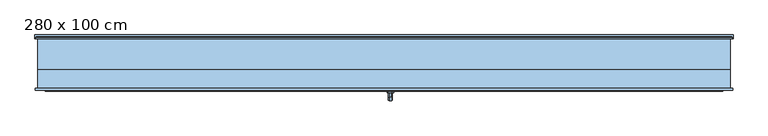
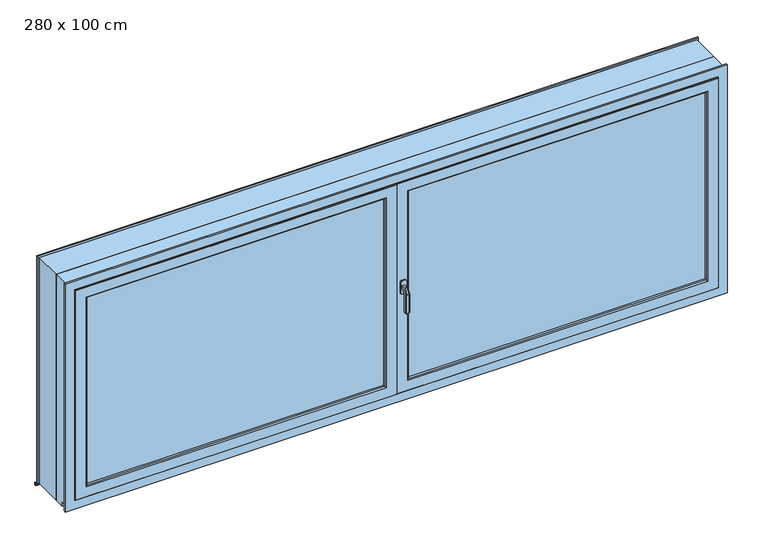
"""IFC4 building model written with IfcOpenShell, lengths in millimetres: window geometry, Fenêtre 2 Vantaux : 280 x 100 cm."""

import ifcopenshell
import ifcopenshell.guid

model = None  # the IFC model being written
_history = None  # IfcOwnerHistory: only IFC2X3 demands one
_inside = {}  # id of a spatial element -> (the spatial element, [elements in it])
_under = {}  # id of a project, library or spatial element -> (it, [spatial elements below it])
_declared = {}  # id of a project -> (the project, [libraries it declares])
_typed = {}  # id of a type object -> (the type object, [elements of that type])
_made_of = {}  # id of a material, layer set ... -> (it, [elements and type objects made of it])


def new_model(schema):
    """Start an empty IFC model of exactly this schema.

    Asked for "IFC4X3", IfcOpenShell would pick the latest addendum, in which some entities
    have other attributes; the version numbers below select the first issue.
    IFC2X3 requires an IfcOwnerHistory on every rooted entity: one is made here for all.
    """
    global model, _history
    if schema == "IFC4X3":
        model = ifcopenshell.file(schema_version=(4, 3, 0, 0))
    else:
        model = ifcopenshell.file(schema=schema)
    _inside.clear()
    _under.clear()
    _declared.clear()
    _typed.clear()
    _made_of.clear()
    _history = None
    if model.schema == "IFC2X3":
        org = make("IfcOrganization", Name="unknown")
        user = make(
            "IfcPersonAndOrganization",
            ThePerson=make("IfcPerson", FamilyName="unknown"),
            TheOrganization=org,
        )
        app = make(
            "IfcApplication",
            ApplicationDeveloper=org,
            Version="unknown",
            ApplicationFullName="unknown",
            ApplicationIdentifier="unknown",
        )
        _history = make(
            "IfcOwnerHistory",
            OwningUser=user,
            OwningApplication=app,
            ChangeAction="ADDED",
            CreationDate=0,
        )
    return model


def make(cls, **values):
    """One entity of the class cls with the attributes given. An attribute that is None is left unset."""
    return model.create_entity(
        cls, **{name: value for name, value in values.items() if value is not None}
    )


def rooted(cls, **values):
    """An entity with a GlobalId (a new one), such as an element, a storey or a relation."""
    return make(cls, GlobalId=ifcopenshell.guid.new(), OwnerHistory=_history, **values)


def si_unit(unit_type, name, prefix=None):
    """IfcSIUnit, for example si_unit("LENGTHUNIT", "METRE", prefix="MILLI")."""
    return make("IfcSIUnit", UnitType=unit_type, Prefix=prefix, Name=name)


def assignment(units):
    """IfcUnitAssignment: the units of a project."""
    return None if units is None else make("IfcUnitAssignment", Units=units)


def point(xyz):
    """IfcCartesianPoint."""
    return None if xyz is None else make("IfcCartesianPoint", Coordinates=xyz)


def direction(xyz):
    """IfcDirection."""
    return None if xyz is None else make("IfcDirection", DirectionRatios=xyz)


def frame(location, z_axis=None, x_axis=None):
    """IfcAxis2Placement3D, a coordinate frame: its origin and axes. An axis left out is left unset."""
    return make(
        "IfcAxis2Placement3D",
        Location=point(location),
        Axis=direction(z_axis),
        RefDirection=direction(x_axis),
    )


def origin():
    """The frame at (0, 0, 0) with its axes left unset."""
    return frame((0.0, 0.0, 0.0))


def place(relative_to, where):
    """IfcLocalPlacement: puts the frame where relative to a parent placement (None: the world)."""
    return make(
        "IfcLocalPlacement", PlacementRelTo=relative_to, RelativePlacement=where
    )


def context(
    kind, dimensions, precision=None, world=None, true_north=None, identifier=None
):
    """IfcGeometricRepresentationContext, for example the 3D "Model" context."""
    return make(
        "IfcGeometricRepresentationContext",
        ContextIdentifier=identifier,
        ContextType=kind,
        CoordinateSpaceDimension=dimensions,
        Precision=precision,
        WorldCoordinateSystem=world,
        TrueNorth=true_north,
    )


def project(units=None, contexts=None):
    """IfcProject with its units and contexts."""
    return rooted(
        "IfcProject",
        Name="project",
        RepresentationContexts=contexts,
        UnitsInContext=assignment(units),
    )


def spatial(cls, under=None, at=None, **own):
    """A site, building, storey or space (cls), placed at a placement, below another one or the project."""
    s = rooted(cls, ObjectPlacement=at, **own)
    if under is not None:
        _under.setdefault(under.id(), (under, []))[1].append(s)
    return s


def polyline(points):
    """IfcPolyline through the points."""
    return make("IfcPolyline", Points=[point(p) for p in points])


def outline(outer, holes=None, kind="AREA"):
    """IfcArbitraryClosedProfileDef: a profile drawn as a closed curve; with holes, ...WithVoids."""
    if holes is None:
        return make("IfcArbitraryClosedProfileDef", ProfileType=kind, OuterCurve=outer)
    return make(
        "IfcArbitraryProfileDefWithVoids",
        ProfileType=kind,
        OuterCurve=outer,
        InnerCurves=holes,
    )


def extrude(swept, where, along, depth):
    """IfcExtrudedAreaSolid: the profile swept, set in the frame where, extruded along a direction by depth."""
    return make(
        "IfcExtrudedAreaSolid",
        SweptArea=swept,
        Position=where,
        ExtrudedDirection=direction(along),
        Depth=depth,
    )


def faces_of(points, faces, orient=None, outer=None):
    """IfcFace entities. A face is a list of loops; a loop is a list of indices into points, from 0.

    orient and outer hold one flag for each loop. By default every Orientation is true, the
    first loop of a face is its IfcFaceOuterBound and the others are IfcFaceBound.
    """
    made = []
    for i, loops in enumerate(faces):
        bounds = []
        for j, loop in enumerate(loops):
            is_outer = j == 0 if outer is None else outer[i][j]
            bounds.append(
                make(
                    "IfcFaceOuterBound" if is_outer else "IfcFaceBound",
                    Bound=make("IfcPolyLoop", Polygon=[points[k] for k in loop]),
                    Orientation=True if orient is None else orient[i][j],
                )
            )
        made.append(make("IfcFace", Bounds=bounds))
    return made


def faceted_brep(points, faces, orient=None, outer=None, voids=None):
    """IfcFacetedBrep: a solid bounded by flat faces; with voids (closed shells), ...WithVoids."""
    shared = [point(p) for p in points]
    hull = make("IfcClosedShell", CfsFaces=faces_of(shared, faces, orient, outer))
    if voids is None:
        return make("IfcFacetedBrep", Outer=hull)
    return make(
        "IfcFacetedBrepWithVoids",
        Outer=hull,
        Voids=[
            make(cls, CfsFaces=faces_of(shared, fs, o, b)) for cls, fs, o, b in voids
        ],
    )


def shape(context_of_items, identifier, shape_type, items):
    """IfcShapeRepresentation: the items that make up one representation, for example the "Body"."""
    return make(
        "IfcShapeRepresentation",
        ContextOfItems=context_of_items,
        RepresentationIdentifier=identifier,
        RepresentationType=shape_type,
        Items=items,
    )


def source(mapping_origin, context_of_items, identifier, shape_type, items):
    """IfcRepresentationMap: a shape defined once, which mapped items show again and again."""
    return make(
        "IfcRepresentationMap",
        MappingOrigin=mapping_origin,
        MappedRepresentation=shape(context_of_items, identifier, shape_type, items),
    )


def transform(
    local_origin,
    x_axis=None,
    y_axis=None,
    z_axis=None,
    scale=None,
    scale2=None,
    scale3=None,
    uniform=True,
):
    """IfcCartesianTransformationOperator3D, or its non-uniform kind. x_axis, y_axis, z_axis: its Axis1, 2, 3."""
    if uniform:
        return make(
            "IfcCartesianTransformationOperator3D",
            Axis1=direction(x_axis),
            Axis2=direction(y_axis),
            LocalOrigin=point(local_origin),
            Scale=scale,
            Axis3=direction(z_axis),
        )
    return make(
        "IfcCartesianTransformationOperator3DnonUniform",
        Axis1=direction(x_axis),
        Axis2=direction(y_axis),
        LocalOrigin=point(local_origin),
        Scale=scale,
        Axis3=direction(z_axis),
        Scale2=scale2,
        Scale3=scale3,
    )


def mapped(mapping_source, mapping_target):
    """IfcMappedItem: shows the shape of a source again, moved by a transform."""
    return make(
        "IfcMappedItem", MappingSource=mapping_source, MappingTarget=mapping_target
    )


def made_of(thing, what):
    """Note that an element or type object is made of a material, layer set ...; save() writes the relation."""
    if what is not None:
        _made_of.setdefault(what.id(), (what, []))[1].append(thing)
    return thing


def element(
    cls,
    number,
    at=None,
    inside=None,
    cuts=None,
    type_object=None,
    material=None,
    context=None,
    identifier="Body",
    shape_type=None,
    held_by="IfcProductDefinitionShape",
    body=None,
    shapes=None,
    **own,
):
    """One element of the class cls, such as IfcWall. Its Tag is "e" and its number.

    at: its placement. inside: the storey or other place that contains it. cuts: it is an
    opening in that element (IfcRelVoidsElement). A single representation is given by context,
    identifier, shape_type and body (its items); several are given by shapes. held_by: the class
    of the entity that holds the representations. save() writes the other relations.
    """
    e = rooted(cls, Tag="e%d" % number, ObjectPlacement=at, **own)
    if body is not None:
        shapes = [shape(context, identifier, shape_type, body)]
    if shapes is not None:
        e.Representation = make(held_by, Representations=shapes)
    if inside is not None:
        _inside.setdefault(inside.id(), (inside, []))[1].append(e)
    if cuts is not None:
        rooted(
            "IfcRelVoidsElement", RelatingBuildingElement=cuts, RelatedOpeningElement=e
        )
    if type_object is not None:
        _typed.setdefault(type_object.id(), (type_object, []))[1].append(e)
    return made_of(e, material)


def aggregate(whole, parts):
    """IfcRelAggregates: a whole, such as a stair, and the parts it consists of."""
    return rooted("IfcRelAggregates", RelatingObject=whole, RelatedObjects=parts)


def save(model, path):
    """Write the relations noted so far, then the file.

    IfcRelAggregates (storeys below a building ...), IfcRelContainedInSpatialStructure (elements
    in a storey), IfcRelDefinesByType, IfcRelAssociatesMaterial and IfcRelDeclares: one each for
    every whole, place, type object, material and project.
    """
    for whole, parts in _under.values():
        aggregate(whole, parts)
    for where, things in _inside.values():
        rooted(
            "IfcRelContainedInSpatialStructure",
            RelatedElements=things,
            RelatingStructure=where,
        )
    for kind, things in _typed.values():
        rooted("IfcRelDefinesByType", RelatedObjects=things, RelatingType=kind)
    for what, things in _made_of.values():
        rooted("IfcRelAssociatesMaterial", RelatedObjects=things, RelatingMaterial=what)
    for by, libraries in _declared.values():
        rooted("IfcRelDeclares", RelatingContext=by, RelatedDefinitions=libraries)
    model.write(path)


def window_280_x_100_cm_213e6699(model_context):
    return source(origin(), model_context, "Body", "SolidModel", [
        faceted_brep([(30.9590356, -118.0471229, 1308.0), (33.9411255, -118.0471229, 1305.0179101), (33.9411255, -118.0471229, 1294.9820899), (30.9590356, -118.0471229, 1292.0), (20.9232154, -118.0471229, 1292.0), (17.9411255, -118.0471229, 1294.9820899), (17.9411255, -118.0471229, 1305.0179101), (20.9232154, -118.0471229, 1308.0), (30.9590356, -137.665925, 1308.0), (33.9411255, -135.9442146, 1305.0179101), (33.9411255, -148.065033, 1284.0240369), (33.9411255, -148.065033, 1201.9658946), (33.9411255, -138.0292127, 1201.9658946), (33.9411255, -138.0292127, 1281.334947), (33.9411255, -130.1500311, 1294.9820899), (30.9590356, -128.4283207, 1292.0), (20.9232154, -128.4283207, 1292.0), (17.9411255, -130.1500311, 1294.9820899), (17.9411255, -138.0292127, 1281.334947), (17.9411255, -138.0292127, 1201.9658946), (17.9411255, -148.065033, 1201.9658946), (17.9411255, -148.065033, 1284.0240369), (17.9411255, -135.9442146, 1305.0179101), (20.9232154, -137.665925, 1308.0), (30.9590356, -151.0471229, 1284.8230855), (30.9590356, -135.0471229, 1280.5358984), (20.9232154, -135.0471229, 1280.5358984), (20.9232154, -151.0471229, 1284.8230855), (21.7375155, -149.0812283, 1200.0), (19.90702, -147.2507328, 1200.0), (19.90702, -138.8435129, 1200.0), (21.7375155, -137.0130174, 1200.0), (30.1447355, -137.0130174, 1200.0), (31.9752309, -138.8435129, 1200.0), (31.9752309, -147.2507328, 1200.0), (30.1447355, -149.0812283, 1200.0), (30.9590356, -151.0471229, 1201.9658946), (30.9590356, -135.0471229, 1201.9658946), (20.9232154, -135.0471229, 1201.9658946), (20.9232154, -151.0471229, 1201.9658946)], [[[0, 1, 2, 3, 4, 5, 6, 7]], [[1, 0, 8, 9]], [[2, 1, 9, 10, 11, 12, 13, 14]], [[3, 2, 14, 15]], [[4, 3, 15, 16]], [[5, 4, 16, 17]], [[6, 5, 17, 18, 19, 20, 21, 22]], [[7, 6, 22, 23]], [[0, 7, 23, 8]], [[9, 8, 24, 10]], [[14, 13, 25, 15]], [[16, 15, 25, 26]], [[17, 16, 26, 18]], [[22, 21, 27, 23]], [[8, 23, 27, 24]], [[28, 29, 30, 31, 32, 33, 34, 35]], [[10, 24, 36, 11]], [[25, 13, 12, 37]], [[26, 25, 37, 38]], [[18, 26, 38, 19]], [[27, 21, 20, 39]], [[24, 27, 39, 36]], [[20, 29, 28, 39]], [[29, 20, 19, 30]], [[30, 19, 38, 31]], [[31, 38, 37, 32]], [[32, 37, 12, 33]], [[33, 12, 11, 34]], [[34, 11, 36, 35]], [[39, 28, 35, 36]]]),
        extrude(outline(polyline([(1270.0, 33.9411255), (1275.0, 38.9411255), (1325.0, 38.9411255), (1330.0, 33.9411255), (1330.0, 17.9411255), (1325.0, 12.9411255), (1275.0, 12.9411255), (1270.0, 17.9411255), (1270.0, 33.9411255)])), frame((0.0, -118.0471229, 0.0), z_axis=(0.0, 1.0, 0.0), x_axis=(0.0, 0.0, 1.0)), (0.0, 0.0, 1.0), 5.0),
        faceted_brep([(1320.0, -74.0588745, 1720.0), (1324.0588745, -70.0, 1724.0588745), (1324.0588745, -70.0, 869.4411255), (1320.0, -74.0588745, 873.5), (1368.5, -70.0, 1768.5), (1368.5, -70.0, 825.0), (1.5, -70.0, 825.0), (1.5, -70.0, 1768.5), (45.9411255, -70.0, 1724.0588745), (45.9411255, -70.0, 869.4411255), (50.0, -74.0588745, 873.5), (1320.0, -83.5235614, 1720.0), (1320.0, -83.5235614, 873.5), (50.0, -83.5235614, 873.5), (44.0, -83.5235614, 1726.0), (44.0, -83.5235614, 867.5), (1326.0, -83.5235614, 867.5), (1326.0, -83.5235614, 1726.0), (50.0, -83.5235614, 1720.0), (1326.0, -99.5235614, 1726.0), (1326.0, -99.5235614, 867.5), (44.0, -99.5235614, 867.5), (44.0, -99.5235614, 1726.0), (50.0, -99.5235614, 1720.0), (50.0, -99.5235614, 873.5), (1320.0, -99.5235614, 873.5), (1320.0, -99.5235614, 1720.0), (1320.0, -108.9882484, 1720.0), (1320.0, -108.9882484, 873.5), (50.0, -108.9882484, 873.5), (1324.0588745, -113.0471229, 1724.0588745), (1324.0588745, -113.0471229, 869.4411255), (45.9411255, -113.0471229, 869.4411255), (1.5, -113.0471229, 1768.5), (1.5, -113.0471229, 825.0), (1368.5, -113.0471229, 825.0), (1368.5, -113.0471229, 1768.5), (45.9411255, -113.0471229, 1724.0588745), (1370.0, -71.5, 1770.0), (1370.0, -111.5471229, 1770.0), (1370.0, -111.5471229, 823.5), (1370.0, -71.5, 823.5), (0.0, -111.5471229, 823.5), (0.0, -71.5, 823.5), (50.0, -74.0588745, 1720.0), (50.0, -108.9882484, 1720.0), (0.0, -111.5471229, 1770.0), (0.0, -71.5, 1770.0)], [[[0, 1, 2, 3]], [[4, 5, 6, 7], [8, 9, 2, 1]], [[3, 2, 9, 10]], [[11, 0, 3, 12]], [[12, 3, 10, 13]], [[14, 15, 16, 17], [11, 12, 13, 18]], [[19, 17, 16, 20]], [[20, 16, 15, 21]], [[19, 20, 21, 22], [23, 24, 25, 26]], [[27, 26, 25, 28]], [[28, 25, 24, 29]], [[30, 27, 28, 31]], [[31, 28, 29, 32]], [[33, 34, 35, 36], [30, 31, 32, 37]], [[38, 39, 40, 41]], [[39, 36, 35, 40]], [[41, 40, 42, 43]], [[4, 38, 41, 5]], [[10, 9, 8, 44]], [[13, 10, 44, 18]], [[21, 15, 14, 22]], [[29, 24, 23, 45]], [[32, 29, 45, 37]], [[40, 35, 34, 42]], [[43, 42, 46, 47]], [[5, 41, 43, 6]], [[6, 43, 47, 7]], [[42, 34, 33, 46]], [[44, 8, 1, 0]], [[18, 44, 0, 11]], [[22, 14, 17, 19]], [[45, 23, 26, 27]], [[37, 45, 27, 30]], [[47, 46, 39, 38]], [[7, 47, 38, 4]], [[46, 33, 36, 39]]]),
        faceted_brep([(-1375.6755267, -20.0, 813.8687943), (-1375.6755267, -20.0, 795.0), (-1375.6755267, -22.0, 795.0), (-1375.6755267, -22.0, 800.0), (-1375.6755267, -25.0, 800.0), (-1375.6755267, -25.0, 814.2950679), (1375.6755267, -20.0, 813.8687943), (1375.6755267, -20.0, 795.0), (1375.6755267, -22.0, 795.0), (1375.6755267, -22.0, 800.0), (1375.6755267, -25.0, 800.0), (1375.0, -25.6755267, 800.0), (1375.0, -60.0, 800.0), (1360.0, -60.0, 800.0), (1360.0, -70.0, 800.0), (1400.0, -70.0, 800.0), (1400.0, -100.0, 800.0), (-1400.0, -100.0, 800.0), (-1400.0, -70.0, 800.0), (-1360.0, -70.0, 800.0), (-1360.0, -60.0, 800.0), (-1375.0, -60.0, 800.0), (-1375.0, -25.6755267, 800.0), (-1375.6755267, -25.0, 783.5), (-1400.0, -25.0, 783.5), (-1400.0, -25.0, 1800.0), (1400.0, -25.0, 1800.0), (1400.0, -25.0, 783.5), (1375.6755267, -25.0, 783.5), (1375.6755267, -25.0, 814.2950679), (1375.6755267, -25.0, 1775.6755267), (-1375.6755267, -25.0, 1775.6755267), (-1375.0, -25.6755267, 814.3526597), (-1375.0, -60.0, 817.278983), (1375.0, -60.0, 817.278983), (1375.0, -25.6755267, 814.3526597), (-1410.0, -100.0, 783.5), (-1410.0, -100.0, 1810.0), (1410.0, -100.0, 1810.0), (1410.0, -100.0, 783.5), (1400.0, -100.0, 1800.0), (-1400.0, -100.0, 1800.0), (-1410.0, -108.0, 783.5), (-1410.0, -108.0, 1810.0), (1410.0, -108.0, 1810.0), (1410.0, -108.0, 783.5), (1400.0, -70.0, 783.5), (1360.0, -70.0, 783.5), (1360.0, -60.0, 783.5), (1375.0, -60.0, 783.5), (1375.0, -25.6755267, 783.5), (-1375.0, -25.6755267, 783.5), (-1375.0, -60.0, 783.5), (-1360.0, -60.0, 783.5), (-1360.0, -70.0, 783.5), (-1400.0, -70.0, 783.5), (-1370.0, -108.0, 1770.0), (1370.0, -108.0, 1770.0), (1370.0, -108.0, 823.5), (-1370.0, -108.0, 823.5), (1370.0, -70.0, 1770.0), (1370.0, -70.0, 823.5), (-1370.0, -70.0, 823.5), (-1370.0, -70.0, 1770.0), (-1360.0, -70.0, 1760.0), (1360.0, -70.0, 1760.0), (1360.0, -70.0, 833.5), (-1360.0, -70.0, 833.5), (1360.0, -60.0, 1760.0), (1360.0, -60.0, 833.5), (-1360.0, -60.0, 833.5), (-1360.0, -60.0, 1760.0), (-1375.0, -60.0, 1775.0), (1375.0, -60.0, 1775.0), (-1375.0, -25.6755267, 1775.0), (1375.0, -25.6755267, 1775.0)], [[[0, 1, 2, 3, 4, 5]], [[1, 0, 6, 7]], [[2, 1, 7, 8]], [[3, 2, 8, 9]], [[3, 9, 10, 11, 12, 13, 14, 15, 16, 17, 18, 19, 20, 21, 22, 4]], [[23, 24, 25, 26, 27, 28, 10, 29, 30, 31, 5, 4]], [[6, 0, 5, 32, 33, 34, 35, 29]], [[9, 8, 7, 6, 29, 10]], [[36, 37, 38, 39], [16, 40, 41, 17]], [[36, 42, 43, 37]], [[39, 38, 44, 45]], [[28, 27, 46, 47, 48, 49, 50]], [[42, 36, 39, 45]], [[23, 51, 52, 53, 54, 55, 24]], [[27, 26, 40, 16, 15, 46]], [[41, 25, 24, 55, 18, 17]], [[45, 44, 43, 42], [56, 57, 58, 59]], [[57, 60, 61, 58]], [[59, 58, 61, 62]], [[63, 56, 59, 62]], [[46, 15, 14, 47]], [[54, 19, 18, 55]], [[60, 63, 62, 61], [64, 65, 66, 67]], [[48, 47, 14, 13]], [[65, 68, 69, 66]], [[67, 66, 69, 70]], [[54, 53, 20, 19]], [[71, 64, 67, 70]], [[53, 52, 21, 20]], [[49, 48, 13, 12]], [[72, 73, 34, 33], [68, 71, 70, 69]], [[52, 51, 22, 21]], [[74, 72, 33, 32]], [[50, 49, 12, 11]], [[73, 75, 35, 34]], [[51, 23, 4, 22]], [[31, 74, 32, 5]], [[28, 50, 11, 10]], [[75, 30, 29, 35]], [[25, 41, 40, 26]], [[72, 74, 75, 73]], [[71, 68, 65, 64]], [[63, 60, 57, 56]], [[38, 37, 43, 44]], [[31, 30, 75, 74]]]),
        extrude(outline(polyline([(-1326.0, -83.5), (-44.0, -83.5), (-44.0, -99.5), (-1326.0, -99.5), (-1326.0, -83.5)])), frame((0.0, 0.0, 867.5), z_axis=(0.0, 0.0, 1.0), x_axis=(1.0, 0.0, 0.0)), (0.0, 0.0, 1.0), 858.5),
        extrude(outline(polyline([(44.0, -83.5), (1326.0, -83.5), (1326.0, -99.5), (44.0, -99.5), (44.0, -83.5)])), frame((0.0, 0.0, 867.5), z_axis=(0.0, 0.0, 1.0), x_axis=(1.0, 0.0, 0.0)), (0.0, 0.0, 1.0), 858.5),
        faceted_brep([(0.0, -71.5, 1770.0), (0.0, -111.5471229, 1770.0), (0.0, -111.5471229, 823.5), (0.0, -71.5, 823.5), (-1.5, -113.0471229, 1768.5), (-1.5, -113.0471229, 825.0), (-1370.0, -111.5471229, 823.5), (-1370.0, -71.5, 823.5), (-1.5, -70.0, 1768.5), (-1.5, -70.0, 825.0), (-45.9411255, -113.0471229, 1724.0588745), (-50.0, -108.9882484, 1720.0), (-50.0, -108.9882484, 873.5), (-45.9411255, -113.0471229, 869.4411255), (-50.0, -99.5235614, 1720.0), (-50.0, -99.5235614, 873.5), (-1320.0, -108.9882484, 873.5), (-1324.0588745, -113.0471229, 869.4411255), (-1368.5, -113.0471229, 1768.5), (-1368.5, -113.0471229, 825.0), (-1324.0588745, -113.0471229, 1724.0588745), (-44.0, -99.5235614, 867.5), (-1326.0, -99.5235614, 867.5), (-1326.0, -99.5235614, 1726.0), (-44.0, -99.5235614, 1726.0), (-1320.0, -99.5235614, 1720.0), (-1320.0, -99.5235614, 873.5), (-44.0, -83.5235614, 1726.0), (-44.0, -83.5235614, 867.5), (-1326.0, -83.5235614, 1726.0), (-1326.0, -83.5235614, 867.5), (-50.0, -83.5235614, 873.5), (-1320.0, -83.5235614, 873.5), (-1320.0, -83.5235614, 1720.0), (-50.0, -83.5235614, 1720.0), (-50.0, -74.0588745, 1720.0), (-50.0, -74.0588745, 873.5), (-45.9411255, -70.0, 1724.0588745), (-45.9411255, -70.0, 869.4411255), (-1320.0, -74.0588745, 873.5), (-1368.5, -70.0, 825.0), (-1368.5, -70.0, 1768.5), (-1324.0588745, -70.0, 1724.0588745), (-1324.0588745, -70.0, 869.4411255), (-1370.0, -111.5471229, 1770.0), (-1370.0, -71.5, 1770.0), (-1320.0, -108.9882484, 1720.0), (-1320.0, -74.0588745, 1720.0)], [[[0, 1, 2, 3]], [[1, 4, 5, 2]], [[3, 2, 6, 7]], [[8, 0, 3, 9]], [[10, 11, 12, 13]], [[11, 14, 15, 12]], [[13, 12, 16, 17]], [[4, 18, 19, 5], [13, 17, 20, 10]], [[21, 22, 23, 24], [14, 25, 26, 15]], [[12, 15, 26, 16]], [[24, 27, 28, 21]], [[27, 29, 30, 28], [31, 32, 33, 34]], [[21, 28, 30, 22]], [[34, 35, 36, 31]], [[35, 37, 38, 36]], [[31, 36, 39, 32]], [[9, 40, 41, 8], [37, 42, 43, 38]], [[36, 38, 43, 39]], [[2, 5, 19, 6]], [[7, 6, 44, 45]], [[9, 3, 7, 40]], [[17, 16, 46, 20]], [[16, 26, 25, 46]], [[22, 30, 29, 23]], [[32, 39, 47, 33]], [[39, 43, 42, 47]], [[6, 19, 18, 44]], [[40, 7, 45, 41]], [[47, 42, 37, 35]], [[33, 47, 35, 34]], [[23, 29, 27, 24]], [[46, 25, 14, 11]], [[20, 46, 11, 10]], [[45, 44, 1, 0]], [[41, 45, 0, 8]], [[44, 18, 4, 1]]]),
        faceted_brep([(1410.6755267, 100.0, 784.4799209), (1410.6755267, 100.0, 782.9767442), (1410.6755267, 113.5, 782.0976744), (1410.6755267, 113.5, 772.5), (1410.6755267, 108.5, 772.5), (1410.6755267, 108.5, 771.0), (1410.6755267, 115.0, 771.0), (1410.6755267, 115.0, 783.5031767), (1408.0, 100.0, 784.4799209), (1408.0, 100.0, 1808.0), (-1408.0, 100.0, 1808.0), (-1408.0, 100.0, 784.4799209), (-1410.6755267, 100.0, 784.4799209), (-1410.6755267, 100.0, 782.9767442), (-1375.6755267, 100.0, 782.9767442), (-1375.6755267, 100.0, 783.5), (-1400.0, 100.0, 783.5), (-1400.0, 100.0, 1800.0), (1400.0, 100.0, 1800.0), (1400.0, 100.0, 783.5), (1375.6755267, 100.0, 783.5), (1375.6755267, 100.0, 782.9767442), (1375.6755267, 91.9642857, 783.5), (1375.6755267, -25.0, 791.1162791), (1375.6755267, -35.0, 791.7674419), (-1375.6755267, -35.0, 791.7674419), (-1375.6755267, -25.0, 791.1162791), (-1375.6755267, 91.9642857, 783.5), (-1410.6755267, 113.5, 782.0976744), (-1410.6755267, 113.5, 772.5), (-1410.6755267, 108.5, 772.5), (-1410.6755267, 108.5, 771.0), (-1410.6755267, 115.0, 771.0), (-1410.6755267, 115.0, 783.5031767), (-1408.0, 106.1421356, 784.0799679), (-1406.1421356, 108.0, 783.9589907), (-1378.8578644, 108.0, 783.9589907), (-1375.6755267, 104.8176624, 784.1662127), (-1375.6755267, 100.0, 784.4799209), (-1375.6755267, -25.0, 792.6194558), (-1375.6755267, -33.5, 793.1729442), (1375.6755267, -33.5, 793.1729442), (1375.6755267, -25.0, 792.6194558), (1375.6755267, 100.0, 784.4799209), (1375.6755267, 104.8176624, 784.1662127), (1378.8578644, 108.0, 783.9589907), (1406.1421356, 108.0, 783.9589907), (1408.0, 106.1421356, 784.0799679), (1408.0, 106.1421356, 1808.0), (-1408.0, 106.1421356, 1808.0), (-1375.6755267, -35.0, 797.4781943), (-1375.6755267, -33.5, 797.4781943), (-1375.6755267, -25.0, 783.5), (-1400.0, -25.0, 783.5), (-1400.0, -25.0, 1800.0), (1400.0, -25.0, 1800.0), (1400.0, -25.0, 783.5), (1375.6755267, -25.0, 783.5), (1375.6755267, -33.5, 797.4781943), (1375.6755267, -35.0, 797.4781943), (1375.6755267, -25.0, 1775.6755267), (1375.6755267, 104.8176624, 1775.6755267), (-1375.6755267, 104.8176624, 1775.6755267), (-1375.6755267, -25.0, 1775.6755267), (-1406.1421356, 108.0, 1806.1421356), (1406.1421356, 108.0, 1806.1421356), (1378.8578644, 108.0, 1778.8578644), (-1378.8578644, 108.0, 1778.8578644)], [[[0, 1, 2, 3, 4, 5, 6, 7]], [[1, 0, 8, 9, 10, 11, 12, 13, 14, 15, 16, 17, 18, 19, 20, 21]], [[2, 1, 21, 22, 23, 24, 25, 26, 27, 14, 13, 28]], [[3, 2, 28, 29]], [[4, 3, 29, 30]], [[5, 4, 30, 31]], [[6, 5, 31, 32]], [[7, 6, 32, 33]], [[0, 7, 33, 12, 11, 34, 35, 36, 37, 38, 39, 40, 41, 42, 43, 44, 45, 46, 47, 8]], [[48, 9, 8, 47]], [[10, 49, 34, 11]], [[33, 32, 31, 30, 29, 28, 13, 12]], [[15, 14, 27]], [[25, 50, 51, 40, 39, 26]], [[52, 53, 16, 15, 27]], [[17, 16, 53, 54]], [[55, 56, 19, 18]], [[56, 57, 22, 20, 19]], [[21, 20, 22]], [[41, 58, 59, 24, 23, 42]], [[57, 23, 22]], [[60, 61, 44, 43, 42]], [[50, 25, 24, 59]], [[52, 27, 26]], [[62, 63, 39, 38, 37]], [[49, 64, 35, 34]], [[64, 65, 46, 45, 66, 67, 36, 35]], [[67, 62, 37, 36]], [[40, 51, 58, 41]], [[61, 66, 45, 44]], [[65, 48, 47, 46]], [[51, 50, 59, 58]], [[53, 52, 26, 39, 63, 60, 42, 23, 57, 56, 55, 54]], [[54, 55, 18, 17]], [[10, 9, 48, 49]], [[64, 49, 48, 65]], [[67, 66, 61, 62]], [[60, 63, 62, 61]]]),
        extrude(outline(polyline([(-35.0, 800.0), (-35.0, 791.7674419), (60.0, 785.5813953), (60.0, 765.0), (-70.0, 765.0), (-70.0, 800.0), (-35.0, 800.0)])), frame((-1375.6755267, 0.0, 0.0), z_axis=(1.0, 0.0, 0.0), x_axis=(0.0, 1.0, 0.0)), (0.0, 0.0, 1.0), 2751.3510535),
    ])


if __name__ == "__main__":
    model = new_model("IFC4")
    model_context = context("Model", 3, world=origin())
    ifc_project = project(units=[si_unit("LENGTHUNIT", "METRE", prefix="MILLI")], contexts=[model_context])
    site = spatial("IfcSite", under=ifc_project)
    building = spatial("IfcBuilding", under=site)
    placement = place(None, origin())
    window_280_x_100_cm_shape = window_280_x_100_cm_213e6699(model_context)
    element("IfcWindow", 1, ObjectType="Fenêtre 2 Vantaux : 280 x 100 cm", at=placement, inside=building, context=model_context, shape_type="MappedRepresentation", body=[
        mapped(window_280_x_100_cm_shape, transform((0.0, 0.0, 0.0), x_axis=(1.0, 0.0, 0.0), y_axis=(0.0, 1.0, 0.0), z_axis=(0.0, 0.0, 1.0))),
    ])
    save(model, "model.ifc")
